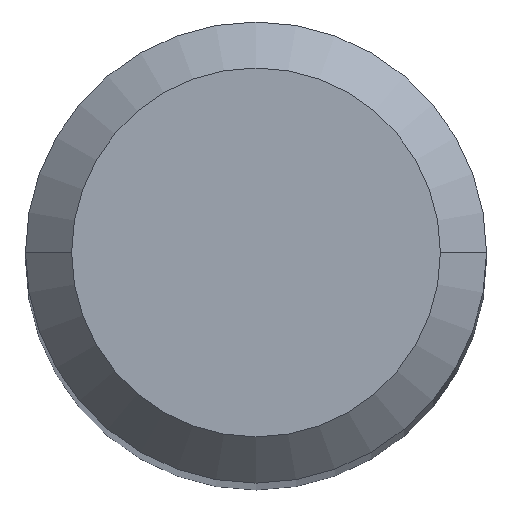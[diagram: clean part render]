
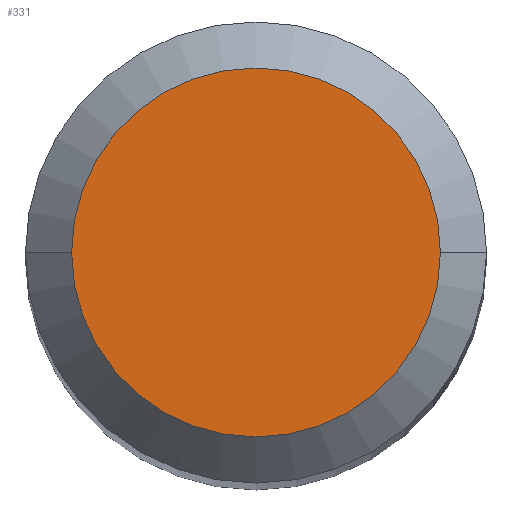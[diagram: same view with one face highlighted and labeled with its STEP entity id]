
A CAD part, top view. The second image highlights one B-rep face of the part: STEP entity #331.
In plain terms, the highlighted planar face has unit normal (0, 0, 1).
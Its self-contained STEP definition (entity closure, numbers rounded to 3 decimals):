
#19 = ORIENTED_EDGE ( 'NONE', *, *, #317, .F. ) ;
#30 = VERTEX_POINT ( 'NONE', #129 ) ;
#66 = DIRECTION ( 'NONE',  ( -1., 0., 0. ) ) ;
#84 = FACE_OUTER_BOUND ( 'NONE', #448, .T. ) ;
#99 = CIRCLE ( 'NONE', #161, 3.2 ) ;
#102 = AXIS2_PLACEMENT_3D ( 'NONE', #289, #282, #207 ) ;
#111 = EDGE_CURVE ( 'NONE', #336, #30, #99, .T. ) ;
#129 = CARTESIAN_POINT ( 'NONE',  ( -3.2, 0., 0. ) ) ;
#161 = AXIS2_PLACEMENT_3D ( 'NONE', #385, #416, #66 ) ;
#207 = DIRECTION ( 'NONE',  ( 1., 0., 0. ) ) ;
#216 = PLANE ( 'NONE',  #102 ) ;
#233 = CARTESIAN_POINT ( 'NONE',  ( 0., 0., 0. ) ) ;
#248 = CARTESIAN_POINT ( 'NONE',  ( 3.2, 0., 0. ) ) ;
#282 = DIRECTION ( 'NONE',  ( 0., 0., 1. ) ) ;
#289 = CARTESIAN_POINT ( 'NONE',  ( 0., 3.2, 0. ) ) ;
#311 = DIRECTION ( 'NONE',  ( 0., 0., -1. ) ) ;
#317 = EDGE_CURVE ( 'NONE', #30, #336, #451, .T. ) ;
#319 = AXIS2_PLACEMENT_3D ( 'NONE', #233, #311, #470 ) ;
#321 = ORIENTED_EDGE ( 'NONE', *, *, #111, .F. ) ;
#331 = ADVANCED_FACE ( 'NONE', ( #84 ), #216, .T. ) ;
#336 = VERTEX_POINT ( 'NONE', #248 ) ;
#385 = CARTESIAN_POINT ( 'NONE',  ( 0., 0., 0. ) ) ;
#416 = DIRECTION ( 'NONE',  ( 0., 0., -1. ) ) ;
#448 = EDGE_LOOP ( 'NONE', ( #19, #321 ) ) ;
#451 = CIRCLE ( 'NONE', #319, 3.2 ) ;
#470 = DIRECTION ( 'NONE',  ( -1., 0., 0. ) ) ;
